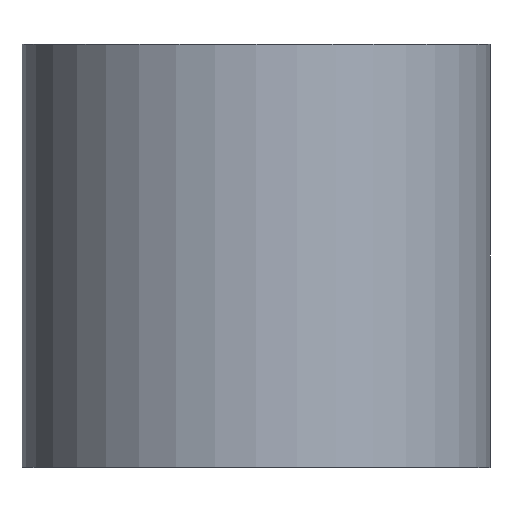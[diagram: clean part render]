
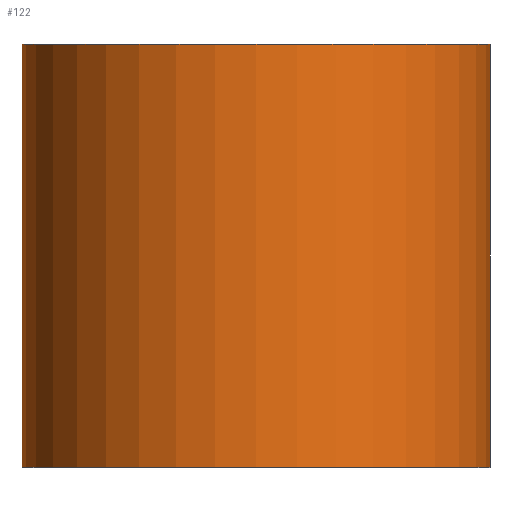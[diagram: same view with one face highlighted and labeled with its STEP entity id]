
A CAD part, top view. The second image highlights one B-rep face of the part: STEP entity #122.
In plain terms, the highlighted cylindrical face has radius 13 mm (diameter 26 mm), a partial arc.
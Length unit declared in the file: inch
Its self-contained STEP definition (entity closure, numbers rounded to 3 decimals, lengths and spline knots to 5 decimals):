
#4 = VERTEX_POINT ( 'NONE', #112 ) ;
#6 = VECTOR ( 'NONE', #193, 39.37008 ) ;
#7 = CARTESIAN_POINT ( 'NONE',  ( 0.51181, 0., 0. ) ) ;
#8 = DIRECTION ( 'NONE',  ( 0., 1., 0. ) ) ;
#17 = CARTESIAN_POINT ( 'NONE',  ( 0.51181, 0.9252, 0. ) ) ;
#19 = EDGE_CURVE ( 'NONE', #143, #111, #191, .T. ) ;
#21 = DIRECTION ( 'NONE',  ( -1., 0., 0. ) ) ;
#25 = DIRECTION ( 'NONE',  ( -1., 0., 0. ) ) ;
#29 = EDGE_CURVE ( 'NONE', #143, #4, #197, .T. ) ;
#30 = DIRECTION ( 'NONE',  ( 0., 1., 0. ) ) ;
#33 = ORIENTED_EDGE ( 'NONE', *, *, #145, .F. ) ;
#45 = AXIS2_PLACEMENT_3D ( 'NONE', #69, #107, #25 ) ;
#56 = VECTOR ( 'NONE', #161, 39.37008 ) ;
#61 = CARTESIAN_POINT ( 'NONE',  ( 0., 0., 0. ) ) ;
#69 = CARTESIAN_POINT ( 'NONE',  ( 0., 0.9252, 0. ) ) ;
#75 = CIRCLE ( 'NONE', #45, 0.51181 ) ;
#80 = EDGE_CURVE ( 'NONE', #111, #128, #179, .T. ) ;
#85 = AXIS2_PLACEMENT_3D ( 'NONE', #134, #8, #120 ) ;
#87 = FACE_OUTER_BOUND ( 'NONE', #141, .T. ) ;
#89 = CARTESIAN_POINT ( 'NONE',  ( -0.51181, 0., 0. ) ) ;
#99 = ORIENTED_EDGE ( 'NONE', *, *, #19, .T. ) ;
#107 = DIRECTION ( 'NONE',  ( 0., 1., 0. ) ) ;
#111 = VERTEX_POINT ( 'NONE', #165 ) ;
#112 = CARTESIAN_POINT ( 'NONE',  ( -0.51181, 0.9252, 0. ) ) ;
#120 = DIRECTION ( 'NONE',  ( 1., 0., 0. ) ) ;
#122 = ADVANCED_FACE ( 'NONE', ( #87 ), #147, .T. ) ;
#128 = VERTEX_POINT ( 'NONE', #17 ) ;
#134 = CARTESIAN_POINT ( 'NONE',  ( 0., 0., 0. ) ) ;
#141 = EDGE_LOOP ( 'NONE', ( #159, #33, #190, #99 ) ) ;
#143 = VERTEX_POINT ( 'NONE', #198 ) ;
#145 = EDGE_CURVE ( 'NONE', #4, #128, #75, .T. ) ;
#147 = CYLINDRICAL_SURFACE ( 'NONE', #85, 0.51181 ) ;
#148 = AXIS2_PLACEMENT_3D ( 'NONE', #61, #30, #21 ) ;
#159 = ORIENTED_EDGE ( 'NONE', *, *, #80, .T. ) ;
#161 = DIRECTION ( 'NONE',  ( 0., 1., 0. ) ) ;
#165 = CARTESIAN_POINT ( 'NONE',  ( 0.51181, 0., 0. ) ) ;
#179 = LINE ( 'NONE', #7, #6 ) ;
#190 = ORIENTED_EDGE ( 'NONE', *, *, #29, .F. ) ;
#191 = CIRCLE ( 'NONE', #148, 0.51181 ) ;
#193 = DIRECTION ( 'NONE',  ( 0., 1., 0. ) ) ;
#197 = LINE ( 'NONE', #89, #56 ) ;
#198 = CARTESIAN_POINT ( 'NONE',  ( -0.51181, 0., 0. ) ) ;
